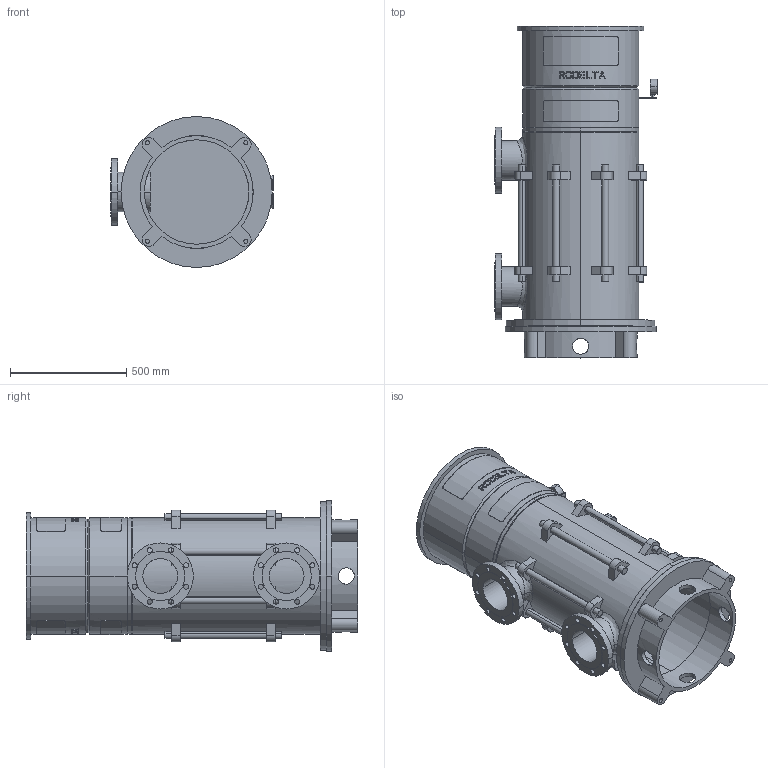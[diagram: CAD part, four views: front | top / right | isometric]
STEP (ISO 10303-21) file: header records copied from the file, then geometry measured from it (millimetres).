
FILE_DESCRIPTION((''),'2;1');
FILE_NAME('LS6_3TR_0GR_ABOVE_30KW','2023-08-15T',('Lyritlocal'),(''),'PRO/ENGINEER BY PARAMETRIC TECHNOLOGY CORPORATION, 2016360','PRO/ENGINEER BY PARAMETRIC TECHNOLOGY CORPORATION, 2016360','');
FILE_SCHEMA(('CONFIG_CONTROL_DESIGN'));
Length unit declared in the file: millimetre
Products named in the file (1): LS6_3TR_0GR_ABOVE_30KW
Bounding box: 700 x 1429 x 650 mm (x, y, z)
Volume: 48051576 mm3; surface area: 6574507.1 mm2
Topology: 3 solids, 7 shells, 684 faces, 1767 edges, 1174 vertices
Faces by surface type: plane 422, cylinder 242, cone 12, bspline 8
Entity records: 22538 total; most frequent: CARTESIAN_POINT 5926, ORIENTED_EDGE 3518, DIRECTION 3273, EDGE_CURVE 1767, AXIS2_PLACEMENT_3D 1237, VERTEX_POINT 1174, EDGE_LOOP 829, VECTOR 799
